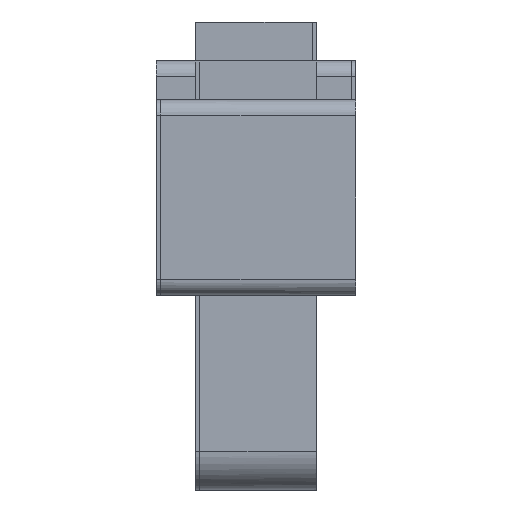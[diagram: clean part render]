
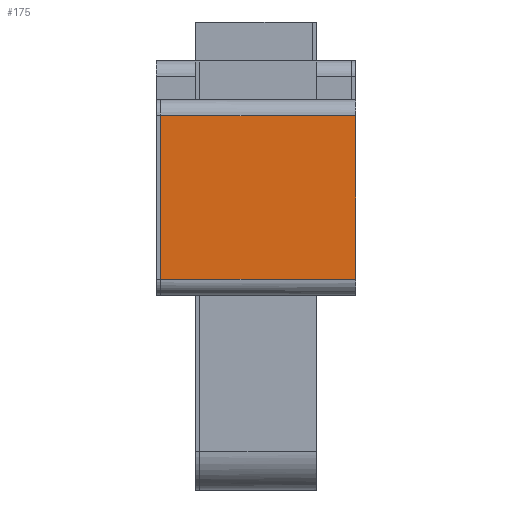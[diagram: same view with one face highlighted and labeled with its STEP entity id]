
A CAD part, front view. The second image highlights one B-rep face of the part: STEP entity #175.
In plain terms, the highlighted free-form (B-spline) face has degree [1, 2] with [2, 3] control points.
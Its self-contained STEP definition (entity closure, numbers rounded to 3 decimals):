
#175=ADVANCED_FACE('',(#295),#4371,.T.);
#295=FACE_OUTER_BOUND('',#422,.T.);
#422=EDGE_LOOP('',(#1027,#1028,#1029,#1030));
#1027=ORIENTED_EDGE('',*,*,#3496,.F.);
#1028=ORIENTED_EDGE('',*,*,#3498,.T.);
#1029=ORIENTED_EDGE('',*,*,#3499,.T.);
#1030=ORIENTED_EDGE('',*,*,#3500,.T.);
#1681=PCURVE('',#4370,#2337);
#1683=PCURVE('',#4371,#2339);
#1684=PCURVE('',#4371,#2340);
#1685=PCURVE('',#4371,#2341);
#1686=PCURVE('',#4371,#2342);
#1687=PCURVE('',#4372,#2343);
#1706=PCURVE('',#4277,#2362);
#1713=PCURVE('',#4278,#2369);
#2337=DEFINITIONAL_REPRESENTATION('',(#2825),#7668);
#2339=DEFINITIONAL_REPRESENTATION('',(#2827),#7668);
#2340=DEFINITIONAL_REPRESENTATION('',(#2828),#7668);
#2341=DEFINITIONAL_REPRESENTATION('',(#2829),#7668);
#2342=DEFINITIONAL_REPRESENTATION('',(#2830),#7668);
#2343=DEFINITIONAL_REPRESENTATION('',(#2831),#7668);
#2362=DEFINITIONAL_REPRESENTATION('',(#4010),#7668);
#2369=DEFINITIONAL_REPRESENTATION('',(#4017),#7668);
#2825=B_SPLINE_CURVE_WITH_KNOTS('',1,(#7463,#7464),.UNSPECIFIED.,.F.,.F.,
(2,2),(-5.,0.),.UNSPECIFIED.);
#2827=B_SPLINE_CURVE_WITH_KNOTS('',1,(#7470,#7471),.UNSPECIFIED.,.F.,.F.,
(2,2),(-5.,0.),.UNSPECIFIED.);
#2828=B_SPLINE_CURVE_WITH_KNOTS('',1,(#7475,#7476),.UNSPECIFIED.,.F.,.F.,
(2,2),(0.228,4.428),.UNSPECIFIED.);
#2829=B_SPLINE_CURVE_WITH_KNOTS('',1,(#7479,#7480),.UNSPECIFIED.,.F.,.F.,
(2,2),(-5.,0.),.UNSPECIFIED.);
#2830=B_SPLINE_CURVE_WITH_KNOTS('',1,(#7484,#7485),.UNSPECIFIED.,.F.,.F.,
(2,2),(-4.428,-0.228),.UNSPECIFIED.);
#2831=B_SPLINE_CURVE_WITH_KNOTS('',1,(#7486,#7487),.UNSPECIFIED.,.F.,.F.,
(2,2),(-5.,0.),.UNSPECIFIED.);
#3168=SURFACE_CURVE('',#3992,(#1681,#1683),.PCURVE_S1.);
#3170=SURFACE_CURVE('',#3994,(#1684,#1713),.PCURVE_S1.);
#3171=SURFACE_CURVE('',#3995,(#1685,#1687),.PCURVE_S1.);
#3172=SURFACE_CURVE('',#3996,(#1686,#1706),.PCURVE_S1.);
#3496=EDGE_CURVE('',#4242,#4241,#3168,.T.);
#3498=EDGE_CURVE('',#4242,#4244,#3170,.T.);
#3499=EDGE_CURVE('',#4244,#4243,#3171,.T.);
#3500=EDGE_CURVE('',#4243,#4241,#3172,.T.);
#3992=(
BOUNDED_CURVE()
B_SPLINE_CURVE(1,(#7461,#7462),.UNSPECIFIED.,.F.,.F.)
B_SPLINE_CURVE_WITH_KNOTS((2,2),(-5.,0.),.UNSPECIFIED.)
CURVE()
GEOMETRIC_REPRESENTATION_ITEM()
RATIONAL_B_SPLINE_CURVE((1.,1.))
REPRESENTATION_ITEM('')
);
#3994=(
BOUNDED_CURVE()
B_SPLINE_CURVE(2,(#7472,#7473,#7474),.UNSPECIFIED.,.F.,.F.)
B_SPLINE_CURVE_WITH_KNOTS((3,3),(0.228,4.428),
 .UNSPECIFIED.)
CURVE()
GEOMETRIC_REPRESENTATION_ITEM()
RATIONAL_B_SPLINE_CURVE((1.,1.,1.))
REPRESENTATION_ITEM('')
);
#3995=(
BOUNDED_CURVE()
B_SPLINE_CURVE(1,(#7477,#7478),.UNSPECIFIED.,.F.,.F.)
B_SPLINE_CURVE_WITH_KNOTS((2,2),(-5.,0.),.UNSPECIFIED.)
CURVE()
GEOMETRIC_REPRESENTATION_ITEM()
RATIONAL_B_SPLINE_CURVE((1.,1.))
REPRESENTATION_ITEM('')
);
#3996=(
BOUNDED_CURVE()
B_SPLINE_CURVE(2,(#7481,#7482,#7483),.UNSPECIFIED.,.F.,.F.)
B_SPLINE_CURVE_WITH_KNOTS((3,3),(-4.428,-0.228),
 .UNSPECIFIED.)
CURVE()
GEOMETRIC_REPRESENTATION_ITEM()
RATIONAL_B_SPLINE_CURVE((1.,1.,1.))
REPRESENTATION_ITEM('')
);
#4010=(
BOUNDED_CURVE()
B_SPLINE_CURVE(2,(#7554,#7555,#7556),.UNSPECIFIED.,.F.,.F.)
B_SPLINE_CURVE_WITH_KNOTS((3,3),(-4.428,-0.228),
 .UNSPECIFIED.)
CURVE()
GEOMETRIC_REPRESENTATION_ITEM()
RATIONAL_B_SPLINE_CURVE((1.,1.,1.))
REPRESENTATION_ITEM('')
);
#4017=(
BOUNDED_CURVE()
B_SPLINE_CURVE(2,(#7575,#7576,#7577),.UNSPECIFIED.,.F.,.F.)
B_SPLINE_CURVE_WITH_KNOTS((3,3),(0.228,4.428),
 .UNSPECIFIED.)
CURVE()
GEOMETRIC_REPRESENTATION_ITEM()
RATIONAL_B_SPLINE_CURVE((1.,1.,1.))
REPRESENTATION_ITEM('')
);
#4241=VERTEX_POINT('',#7051);
#4242=VERTEX_POINT('',#7052);
#4243=VERTEX_POINT('',#7053);
#4244=VERTEX_POINT('',#7054);
#4277=PLANE('',#4417);
#4278=PLANE('',#4418);
#4370=(
BOUNDED_SURFACE()
B_SPLINE_SURFACE(1,2,((#6965,#6966,#6967),(#6968,#6969,#6970)),
 .UNSPECIFIED.,.F.,.F.,.F.)
B_SPLINE_SURFACE_WITH_KNOTS((2,2),(3,3),(0.,5.),(-0.4,0.228),
 .UNSPECIFIED.)
GEOMETRIC_REPRESENTATION_ITEM()
RATIONAL_B_SPLINE_SURFACE(((1.,0.707,1.),(1.,0.707,
1.)))
REPRESENTATION_ITEM('')
SURFACE()
);
#4371=(
BOUNDED_SURFACE()
B_SPLINE_SURFACE(1,2,((#6971,#6972,#6973),(#6974,#6975,#6976)),
 .UNSPECIFIED.,.F.,.F.,.F.)
B_SPLINE_SURFACE_WITH_KNOTS((2,2),(3,3),(0.,5.),(0.228,4.428),
 .UNSPECIFIED.)
GEOMETRIC_REPRESENTATION_ITEM()
RATIONAL_B_SPLINE_SURFACE(((1.,1.,1.),(1.,1.,1.)))
REPRESENTATION_ITEM('')
SURFACE()
);
#4372=(
BOUNDED_SURFACE()
B_SPLINE_SURFACE(1,2,((#6977,#6978,#6979),(#6980,#6981,#6982)),
 .UNSPECIFIED.,.F.,.F.,.F.)
B_SPLINE_SURFACE_WITH_KNOTS((2,2),(3,3),(0.,5.),(4.428,5.057),
 .UNSPECIFIED.)
GEOMETRIC_REPRESENTATION_ITEM()
RATIONAL_B_SPLINE_SURFACE(((1.,0.707,1.),(1.,0.707,
1.)))
REPRESENTATION_ITEM('')
SURFACE()
);
#4417=AXIS2_PLACEMENT_3D('',#6997,#4444,$);
#4418=AXIS2_PLACEMENT_3D('',#6998,#4445,$);
#4444=DIRECTION('',(-1.,0.,0.));
#4445=DIRECTION('',(1.,0.,0.));
#6965=CARTESIAN_POINT('',(224.6,350.9,-115.));
#6966=CARTESIAN_POINT('',(224.6,350.5,-115.));
#6967=CARTESIAN_POINT('',(224.6,350.5,-114.6));
#6968=CARTESIAN_POINT('',(229.6,350.9,-115.));
#6969=CARTESIAN_POINT('',(229.6,350.5,-115.));
#6970=CARTESIAN_POINT('',(229.6,350.5,-114.6));
#6971=CARTESIAN_POINT('',(224.6,350.5,-114.6));
#6972=CARTESIAN_POINT('',(224.6,350.5,-112.5));
#6973=CARTESIAN_POINT('',(224.6,350.5,-110.4));
#6974=CARTESIAN_POINT('',(229.6,350.5,-114.6));
#6975=CARTESIAN_POINT('',(229.6,350.5,-112.5));
#6976=CARTESIAN_POINT('',(229.6,350.5,-110.4));
#6977=CARTESIAN_POINT('',(224.6,350.5,-110.4));
#6978=CARTESIAN_POINT('',(224.6,350.5,-110.));
#6979=CARTESIAN_POINT('',(224.6,350.9,-110.));
#6980=CARTESIAN_POINT('',(229.6,350.5,-110.4));
#6981=CARTESIAN_POINT('',(229.6,350.5,-110.));
#6982=CARTESIAN_POINT('',(229.6,350.9,-110.));
#6997=CARTESIAN_POINT('',(224.6,349.875,-109.375));
#6998=CARTESIAN_POINT('',(229.6,349.875,-109.375));
#7051=CARTESIAN_POINT('',(224.6,350.5,-114.6));
#7052=CARTESIAN_POINT('',(229.6,350.5,-114.6));
#7053=CARTESIAN_POINT('',(224.6,350.5,-110.4));
#7054=CARTESIAN_POINT('',(229.6,350.5,-110.4));
#7461=CARTESIAN_POINT('',(229.6,350.5,-114.6));
#7462=CARTESIAN_POINT('',(224.6,350.5,-114.6));
#7463=CARTESIAN_POINT('',(5.,0.228));
#7464=CARTESIAN_POINT('',(0.,0.228));
#7470=CARTESIAN_POINT('',(5.,0.228));
#7471=CARTESIAN_POINT('',(0.,0.228));
#7472=CARTESIAN_POINT('',(229.6,350.5,-114.6));
#7473=CARTESIAN_POINT('',(229.6,350.5,-112.5));
#7474=CARTESIAN_POINT('',(229.6,350.5,-110.4));
#7475=CARTESIAN_POINT('',(5.,0.228));
#7476=CARTESIAN_POINT('',(5.,4.428));
#7477=CARTESIAN_POINT('',(229.6,350.5,-110.4));
#7478=CARTESIAN_POINT('',(224.6,350.5,-110.4));
#7479=CARTESIAN_POINT('',(5.,4.428));
#7480=CARTESIAN_POINT('',(0.,4.428));
#7481=CARTESIAN_POINT('',(224.6,350.5,-110.4));
#7482=CARTESIAN_POINT('',(224.6,350.5,-112.5));
#7483=CARTESIAN_POINT('',(224.6,350.5,-114.6));
#7484=CARTESIAN_POINT('',(0.,4.428));
#7485=CARTESIAN_POINT('',(0.,0.228));
#7486=CARTESIAN_POINT('',(5.,4.428));
#7487=CARTESIAN_POINT('',(0.,4.428));
#7554=CARTESIAN_POINT('',(-5.,0.));
#7555=CARTESIAN_POINT('',(-5.,2.1));
#7556=CARTESIAN_POINT('',(-5.,4.2));
#7575=CARTESIAN_POINT('',(4.2,-5.));
#7576=CARTESIAN_POINT('',(2.1,-5.));
#7577=CARTESIAN_POINT('',(0.,-5.));
#7668=(
GEOMETRIC_REPRESENTATION_CONTEXT(2)
PARAMETRIC_REPRESENTATION_CONTEXT()
REPRESENTATION_CONTEXT('pspace','')
);
